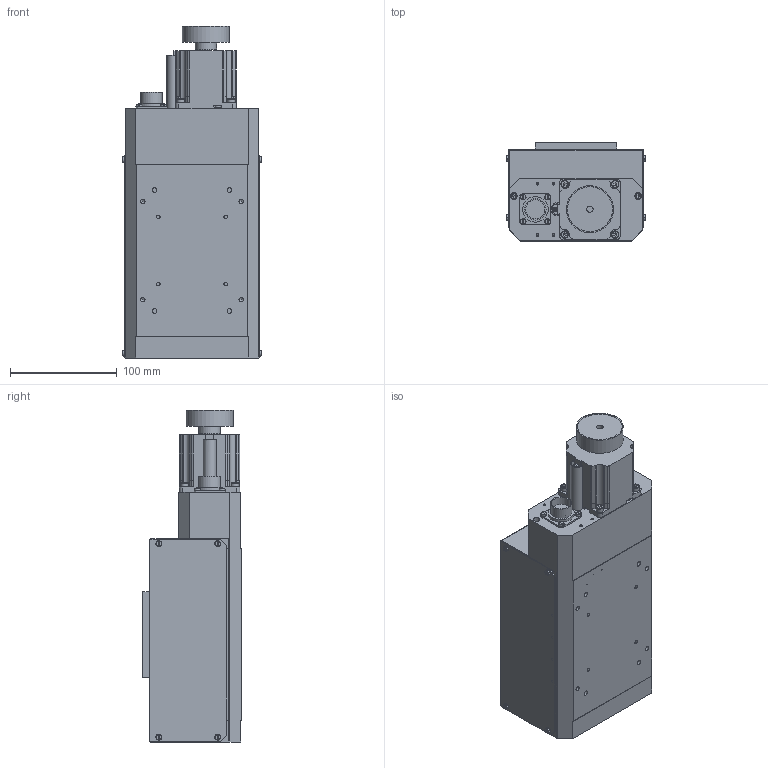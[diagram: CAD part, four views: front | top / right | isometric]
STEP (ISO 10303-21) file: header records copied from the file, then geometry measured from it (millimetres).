
FILE_DESCRIPTION((''),'2;1');
FILE_NAME('C:\Axmo\Axmo autodesk\Designs\Standard\1197 vmf\VMF3-PP-AXMO.stp','2012-12-04T09:52:40',('AXMOBE'),(''),'Autodesk Inventor 2011','Autodesk Inventor 2011','');
FILE_SCHEMA(('AUTOMOTIVE_DESIGN { 1 2 10303 214 0 1 1 1 }'));
Length unit declared in the file: millimetre
Products named in the file (1): 1197 03 ENS 000_Enveloppe_1
Bounding box: 129.6 x 92 x 310.5 mm (x, y, z)
Volume: 1593916.9 mm3; surface area: 333486.6 mm2
Topology: 4 solids, 48 shells, 1277 faces, 2999 edges, 1920 vertices
Faces by surface type: plane 691, cylinder 318, cone 164, torus 61, bspline 40, sphere 3
Full cylindrical faces by diameter (mm): 1 x4, 2.013 x13, 2.459 x76, 2.693 x12, 3 x17, 3.242 x21, 3.5 x26, 4 x14, 4.134 x4, 4.5 x4, 4.917 x8, 5 x4, 5.5 x12, 6 x18, 6.2 x1, 6.35 x3, 7 x7, 7.5 x4, 8 x1, 9 x1, 10 x2, 12 x1, 15.2 x1, 18 x3, 19 x2, 20 x2, 21 x1, 23 x1, 23.5 x1, 24 x1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
Entity records: 34433 total; most frequent: CARTESIAN_POINT 7110, DIRECTION 5344, ORIENTED_EDGE 4624, EDGE_CURVE 2312, AXIS2_PLACEMENT_3D 2073, EDGE_LOOP 1949, VERTEX_POINT 1705, FACE_OUTER_BOUND 1275
